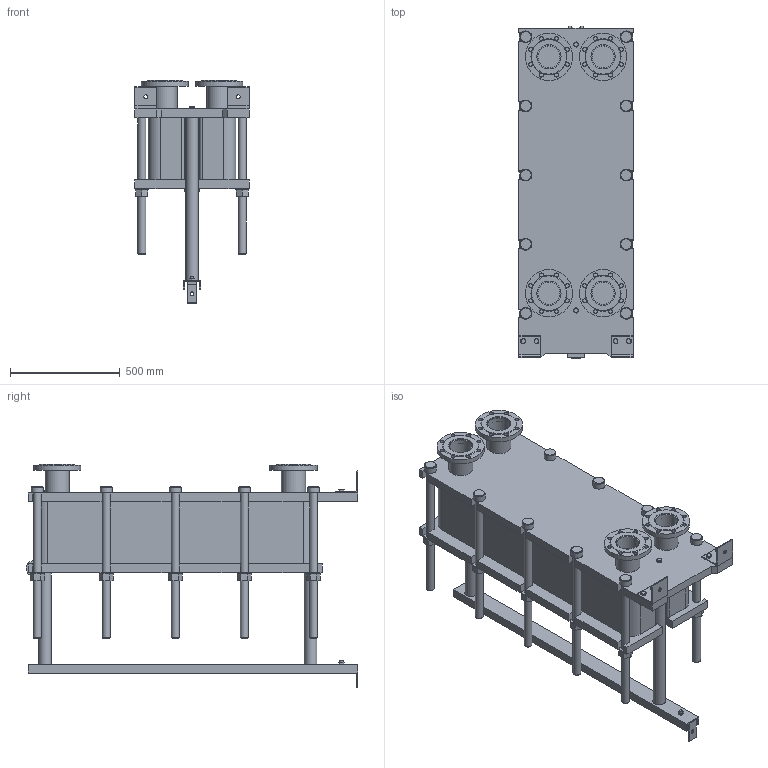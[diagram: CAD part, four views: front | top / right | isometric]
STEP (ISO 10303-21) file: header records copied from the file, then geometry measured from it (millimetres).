
FILE_DESCRIPTION(/* description */ (''),/* implementation_level */ '2;1');
FILE_NAME(/* name */ 'C:\Users\zhuro\Desktop\ENCO\TO\ЭН-04\ЭН-0,5-04-82-1.stp',/* time_stamp */ '2022-06-06T10:51:58+03:00',/* author */ ('zhuro'),/* organization */ (''),/* preprocessor_version */ 'ST-DEVELOPER v18.1',/* originating_system */ 'Autodesk Inventor 2022',/* authorisation */ '');
FILE_SCHEMA (('AUTOMOTIVE_DESIGN { 1 0 10303 214 3 1 1 }'));
Length unit declared in the file: millimetre
Products named in the file (1): ЭН-0,5-04-82-1
Bounding box: 520 x 1510 x 1016 mm (x, y, z)
Volume: 211617871.8 mm3; surface area: 7959440.2 mm2
Topology: 45 solids, 45 shells, 668 faces, 1611 edges, 1048 vertices
Faces by surface type: plane 457, cylinder 166, cone 39, torus 6
Full cylindrical faces by diameter (mm): 8 x4, 10 x2, 16 x8, 18 x35, 36 x25, 40 x2, 42 x1, 45 x4, 54 x10, 57 x2, 60 x10, 68 x2, 100 x4, 110 x8, 215 x4
Entity records: 23607 total; most frequent: CARTESIAN_POINT 7348, DIRECTION 3371, ORIENTED_EDGE 3142, EDGE_CURVE 1571, AXIS2_PLACEMENT_3D 1199, VERTEX_POINT 1044, LINE 973, VECTOR 973
